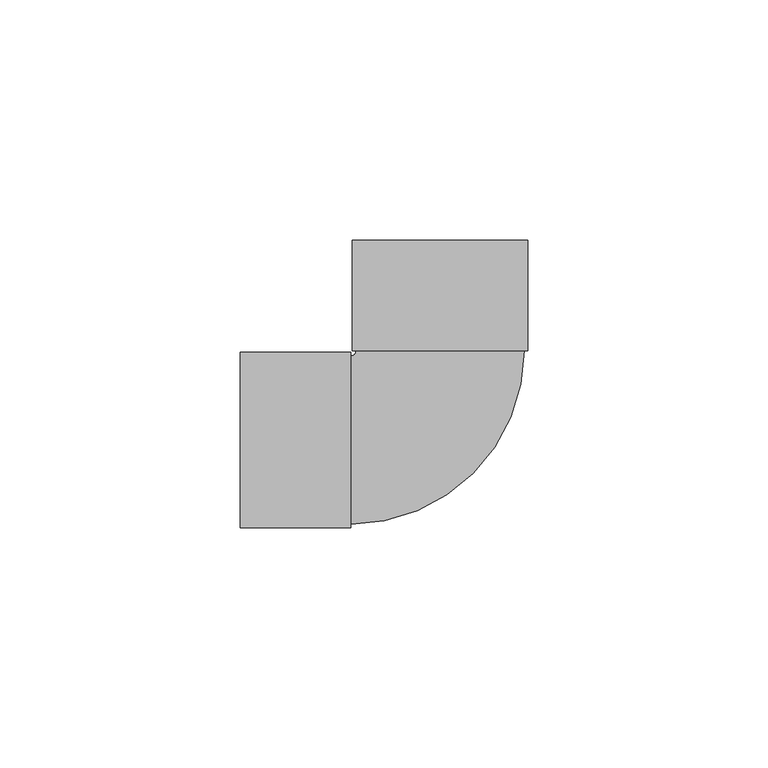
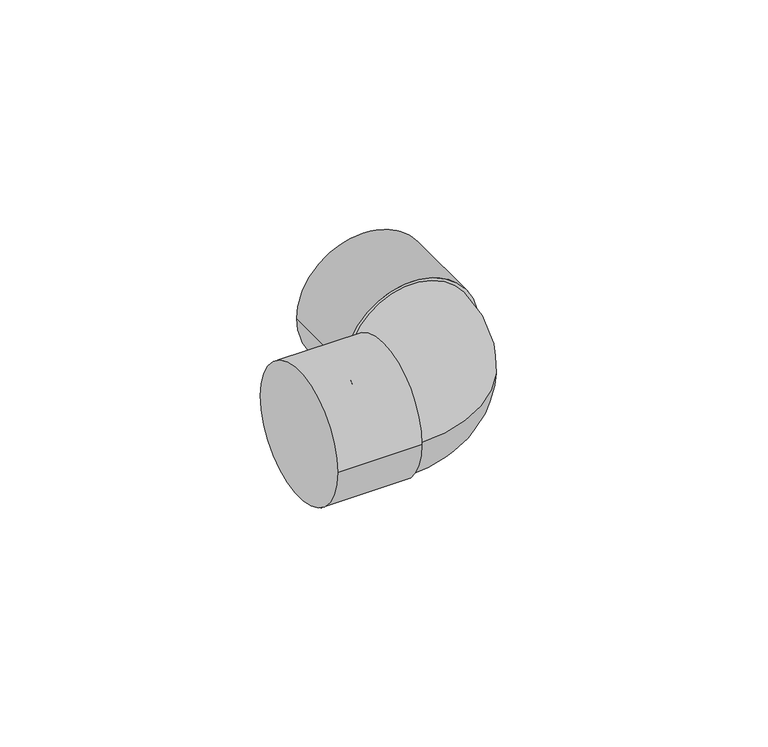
"""IFC4 building model written with IfcOpenShell, lengths in millimetres: pipe fitting geometry, Cotovelo - Soldado - CU : Padrão."""

from ifc_helpers import new_model, si_unit, point, frame, origin, place, context, project, spatial, circle_curve, ellipse_curve, trimmed, source, transform, mapped, element, save
from ifc_brep_helpers import plane_surface, cylinder_surface, revolved_surface, advanced_brep


def pipe_fitting_630650c0(model_context):
    return source(origin(), model_context, "Body", "AdvancedBrep", [
        advanced_brep(
        [(-17.5002329, 18.5997809, 0.0), (-18.6, 17.5, 0.0), (-18.6, -17.5, 0.0), (17.4997671, 18.6002191, 0.0), (-41.6, -18.28, 0.0), (-41.6, 18.28, 0.0), (-18.6, -18.28, 0.0), (-18.6, 18.28, 0.0), (-18.2805208, 41.5997711, 0.0), (18.2794792, 41.6002288, 0.0), (-18.2802329, 18.5997711, 0.0), (18.2797671, 18.6002288, 0.0)],
        [
            (0, 1, circle_curve(frame((-18.6, 18.5997671, 0.0), z_axis=(0.0, 0.0, -1.0), x_axis=(0.0, -1.0, 0.0)), 1.0997671)),
            (1, 2, circle_curve(frame((-18.6, 0.0, 0.0), z_axis=(1.0, 0.0, 0.0), x_axis=(0.0, 1.0, 0.0)), 17.5)),
            (2, 3, circle_curve(frame((-18.6, 18.5997671, 0.0), z_axis=(0.0, 0.0, 1.0), x_axis=(0.0, -1.0, 0.0)), 36.0997671)),
            (3, 0, circle_curve(frame((-0.0002329, 18.6, 0.0), z_axis=(1.2519202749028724e-05, -0.9999999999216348, 0.0), x_axis=(-0.9999999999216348, -1.2519202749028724e-05, 0.0)), 17.5)),
            (0, 3, circle_curve(frame((-0.0002329, 18.6, 0.0), z_axis=(1.2519202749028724e-05, -0.9999999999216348, 0.0), x_axis=(-0.9999999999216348, -1.2519202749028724e-05, 0.0)), 17.5)),
            (2, 1, circle_curve(frame((-18.6, 0.0, 0.0), z_axis=(1.0, 0.0, 0.0), x_axis=(0.0, 1.0, 0.0)), 17.5)),
            (4, 5, circle_curve(frame((-41.6, 0.0, 0.0), z_axis=(-1.0, 0.0, 0.0), x_axis=(0.0, 1.0, 0.0)), 18.28)),
            (5, 4, circle_curve(frame((-41.6, 0.0, 0.0), z_axis=(-1.0, 0.0, 0.0), x_axis=(0.0, 1.0, 0.0)), 18.28)),
            (6, 7, circle_curve(frame((-18.6, 0.0, 0.0), z_axis=(1.0, 0.0, 0.0), x_axis=(0.0, 1.0, 0.0)), 18.28)),
            (7, 6, circle_curve(frame((-18.6, 0.0, 0.0), z_axis=(1.0, 0.0, 0.0), x_axis=(0.0, 1.0, 0.0)), 18.28)),
            (4, 6),
            (7, 5),
            (8, 9, circle_curve(frame((-0.0005208, 41.6, 0.0), z_axis=(-1.2519202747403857e-05, 0.9999999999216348, 0.0), x_axis=(0.9999999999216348, 1.2519202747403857e-05, 0.0)), 18.28)),
            (9, 8, circle_curve(frame((-0.0005208, 41.6, 0.0), z_axis=(-1.2519202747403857e-05, 0.9999999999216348, 0.0), x_axis=(0.9999999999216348, 1.2519202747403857e-05, 0.0)), 18.28)),
            (10, 11, circle_curve(frame((-0.0002329, 18.6, 0.0), z_axis=(1.2519202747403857e-05, -0.9999999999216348, 0.0), x_axis=(0.9999999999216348, 1.2519202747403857e-05, 0.0)), 18.28)),
            (11, 10, circle_curve(frame((-0.0002329, 18.6, 0.0), z_axis=(1.2519202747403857e-05, -0.9999999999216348, 0.0), x_axis=(0.9999999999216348, 1.2519202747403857e-05, 0.0)), 18.28)),
            (8, 10),
            (11, 9),
        ],
        [
            revolved_surface(trimmed(ellipse_curve(frame((-18.6, 0.0, 0.0), z_axis=(-1.0, 0.0, 0.0), x_axis=(0.0, 1.0, 0.0)), 17.5, 17.5), [point((-18.6, -17.5, 0.0))], [point((-18.6, 17.5, 0.0))], True, "CARTESIAN"), (-18.6, 18.5997671, 0.0), (0.0, 0.0, 1.0)),
            revolved_surface(trimmed(ellipse_curve(frame((-18.6, 0.0, 0.0), z_axis=(-1.0, 0.0, 0.0), x_axis=(0.0, 1.0, 0.0)), 17.5, 17.5), [point((-18.6, 17.5, 0.0))], [point((-18.6, -17.5, 0.0))], True, "CARTESIAN"), (-18.6, 18.5997671, 0.0), (0.0, 0.0, 1.0)),
            plane_surface(frame((-41.6, 0.0, 0.0), z_axis=(-1.0, 0.0, 0.0), x_axis=(0.0, 0.0, 1.0))),
            plane_surface(frame((-18.6, 0.0, 0.0), z_axis=(1.0, 0.0, 0.0), x_axis=(0.0, 0.0, 1.0))),
            cylinder_surface(frame((-41.6, 0.0, 0.0), z_axis=(-1.0, 0.0, 0.0), x_axis=(0.0, 1.0, 0.0)), 18.28),
            plane_surface(frame((-0.0005208, 41.6, 0.0), z_axis=(-1.2519202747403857e-05, 0.9999999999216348, 0.0), x_axis=(0.0, 0.0, 1.0))),
            plane_surface(frame((-0.0002329, 18.6, 0.0), z_axis=(1.2519202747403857e-05, -0.9999999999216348, 0.0), x_axis=(0.0, 0.0, 1.0))),
            cylinder_surface(frame((-0.0005208, 41.6, 0.0), z_axis=(-1.2519202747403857e-05, 0.9999999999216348, 0.0), x_axis=(0.9999999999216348, 1.2519202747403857e-05, 0.0)), 18.28),
        ],
        [
            (0, [[1, 2, 3, 4]]),
            (1, [[-1, 5, -3, 6]]),
            (2, [[7, 8]]),
            (3, [[9, 10], [-2, -6]]),
            (4, [[-7, 11, -10, 12]]),
            (4, [[-8, -12, -9, -11]]),
            (5, [[13, 14]]),
            (6, [[15, 16], [-4, -5]]),
            (7, [[-13, 17, -16, 18]]),
            (7, [[-14, -18, -15, -17]]),
        ],
    ),
    ])


if __name__ == "__main__":
    model = new_model("IFC4")
    model_context = context("Model", 3, world=origin())
    ifc_project = project(units=[si_unit("LENGTHUNIT", "METRE", prefix="MILLI")], contexts=[model_context])
    site = spatial("IfcSite", under=ifc_project)
    building = spatial("IfcBuilding", under=site)
    placement = place(None, origin())
    pipe_fitting_shape = pipe_fitting_630650c0(model_context)
    element("IfcPipeFitting", 1, ObjectType="Cotovelo - Soldado - CU : Padrão", at=placement, inside=building, context=model_context, shape_type="MappedRepresentation", body=[
        mapped(pipe_fitting_shape, transform((0.0, 0.0, 0.0), x_axis=(1.0, 0.0, 0.0), y_axis=(0.0, 1.0, 0.0), z_axis=(0.0, 0.0, 1.0))),
    ])
    save(model, "model.ifc")
